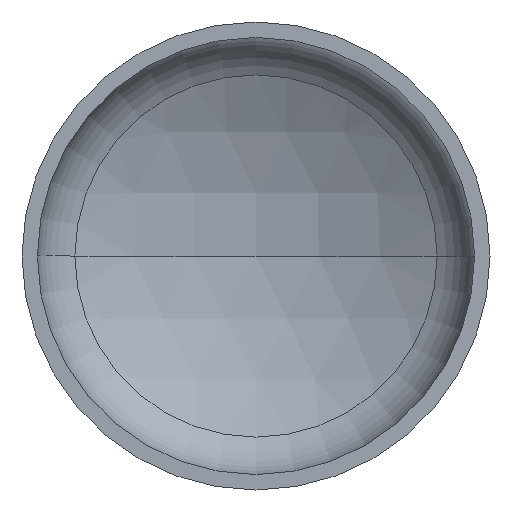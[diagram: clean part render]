
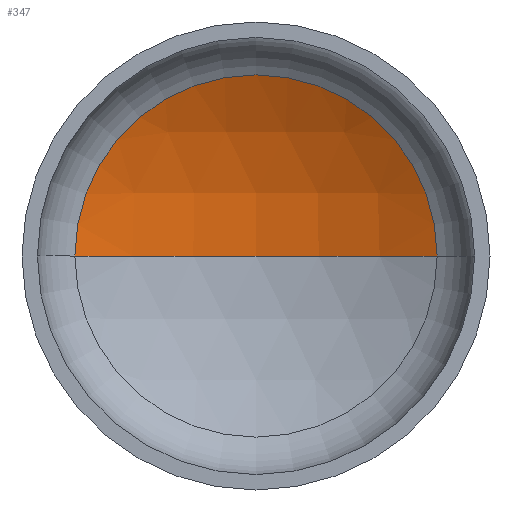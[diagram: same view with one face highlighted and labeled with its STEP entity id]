
A CAD part, front view. The second image highlights one B-rep face of the part: STEP entity #347.
In plain terms, the highlighted spherical face has radius 1600 mm.
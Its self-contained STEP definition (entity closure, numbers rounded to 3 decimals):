
#15 = DIRECTION ( 'NONE',  ( -1., 0., 0. ) ) ;
#18 = DIRECTION ( 'NONE',  ( 0., 0., -1. ) ) ;
#19 = CIRCLE ( 'NONE', #37, 1600. ) ;
#21 = CARTESIAN_POINT ( 'NONE',  ( 0., -1009.037, 0. ) ) ;
#23 = AXIS2_PLACEMENT_3D ( 'NONE', #140, #194, #393 ) ;
#37 = AXIS2_PLACEMENT_3D ( 'NONE', #173, #391, #407 ) ;
#40 = AXIS2_PLACEMENT_3D ( 'NONE', #252, #273, #271 ) ;
#42 = VERTEX_POINT ( 'NONE', #290 ) ;
#44 = AXIS2_PLACEMENT_3D ( 'NONE', #21, #18, #15 ) ;
#97 = VERTEX_POINT ( 'NONE', #340 ) ;
#123 = ORIENTED_EDGE ( 'NONE', *, *, #191, .T. ) ;
#138 = ORIENTED_EDGE ( 'NONE', *, *, #162, .T. ) ;
#140 = CARTESIAN_POINT ( 'NONE',  ( 0., -1009.037, 0. ) ) ;
#152 = ORIENTED_EDGE ( 'NONE', *, *, #218, .F. ) ;
#162 = EDGE_CURVE ( 'NONE', #171, #97, #242, .T. ) ;
#171 = VERTEX_POINT ( 'NONE', #220 ) ;
#173 = CARTESIAN_POINT ( 'NONE',  ( 0., -1009.037, 0. ) ) ;
#191 = EDGE_CURVE ( 'NONE', #42, #171, #304, .T. ) ;
#194 = DIRECTION ( 'NONE',  ( 0., 0., -1. ) ) ;
#216 = SPHERICAL_SURFACE ( 'NONE', #23, 1600. ) ;
#218 = EDGE_CURVE ( 'NONE', #42, #97, #19, .T. ) ;
#220 = CARTESIAN_POINT ( 'NONE',  ( 773.953, 391.319, 0. ) ) ;
#242 = CIRCLE ( 'NONE', #40, 773.953 ) ;
#252 = CARTESIAN_POINT ( 'NONE',  ( 0., 391.319, 0. ) ) ;
#271 = DIRECTION ( 'NONE',  ( 1., 0., 0. ) ) ;
#273 = DIRECTION ( 'NONE',  ( 0., -1., 0. ) ) ;
#290 = CARTESIAN_POINT ( 'NONE',  ( 0., 590.963, 0. ) ) ;
#304 = CIRCLE ( 'NONE', #44, 1600. ) ;
#340 = CARTESIAN_POINT ( 'NONE',  ( -773.953, 391.319, 0. ) ) ;
#347 = ADVANCED_FACE ( 'NONE', ( #362 ), #216, .F. ) ;
#354 = EDGE_LOOP ( 'NONE', ( #152, #123, #138 ) ) ;
#362 = FACE_OUTER_BOUND ( 'NONE', #354, .T. ) ;
#391 = DIRECTION ( 'NONE',  ( 0., 0., 1. ) ) ;
#393 = DIRECTION ( 'NONE',  ( -1., 0., 0. ) ) ;
#407 = DIRECTION ( 'NONE',  ( 1., 0., 0. ) ) ;
